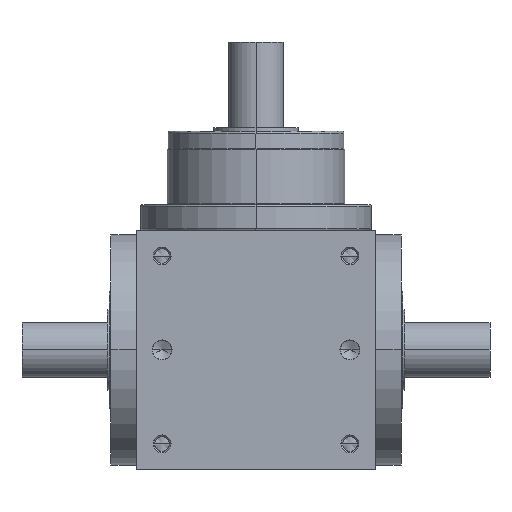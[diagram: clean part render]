
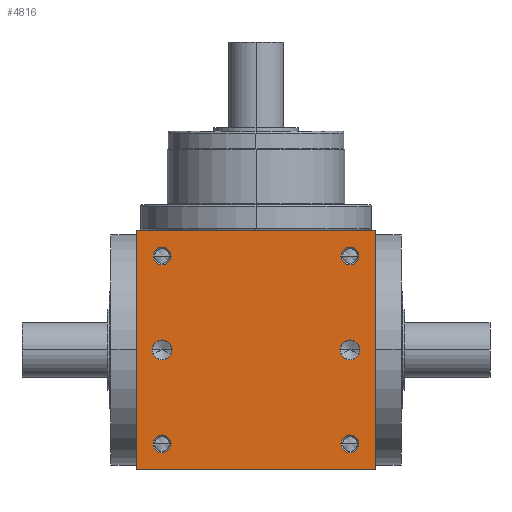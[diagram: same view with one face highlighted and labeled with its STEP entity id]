
A CAD part, front view. The second image highlights one B-rep face of the part: STEP entity #4816.
In plain terms, the highlighted planar face has unit normal (0, -1, 0).
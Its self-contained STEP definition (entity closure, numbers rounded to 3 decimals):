
#5=DIRECTION('',(1.,0.,0.));
#6=VECTOR('',#5,140.);
#7=CARTESIAN_POINT('',(-70.,-70.,-70.));
#8=LINE('',#7,#6);
#155=DIRECTION('',(0.,0.,1.));
#156=VECTOR('',#155,140.);
#157=CARTESIAN_POINT('',(70.,-70.,-70.));
#158=LINE('',#157,#156);
#209=DIRECTION('',(0.,0.,1.));
#210=VECTOR('',#209,140.);
#211=CARTESIAN_POINT('',(-70.,-70.,-70.));
#212=LINE('',#211,#210);
#213=CARTESIAN_POINT('',(55.,-70.,55.));
#214=DIRECTION('',(0.,1.,0.));
#215=DIRECTION('',(-1.,0.,0.));
#216=AXIS2_PLACEMENT_3D('',#213,#214,#215);
#218=CARTESIAN_POINT('',(55.,-70.,55.));
#219=DIRECTION('',(0.,1.,0.));
#220=DIRECTION('',(1.,0.,0.));
#221=AXIS2_PLACEMENT_3D('',#218,#219,#220);
#223=CARTESIAN_POINT('',(-55.,-70.,55.));
#224=DIRECTION('',(0.,1.,0.));
#225=DIRECTION('',(-1.,0.,0.));
#226=AXIS2_PLACEMENT_3D('',#223,#224,#225);
#228=CARTESIAN_POINT('',(-55.,-70.,55.));
#229=DIRECTION('',(0.,1.,0.));
#230=DIRECTION('',(1.,0.,0.));
#231=AXIS2_PLACEMENT_3D('',#228,#229,#230);
#233=CARTESIAN_POINT('',(55.,-70.,-55.));
#234=DIRECTION('',(0.,1.,0.));
#235=DIRECTION('',(-1.,0.,0.));
#236=AXIS2_PLACEMENT_3D('',#233,#234,#235);
#238=CARTESIAN_POINT('',(55.,-70.,-55.));
#239=DIRECTION('',(0.,1.,0.));
#240=DIRECTION('',(1.,0.,0.));
#241=AXIS2_PLACEMENT_3D('',#238,#239,#240);
#243=CARTESIAN_POINT('',(-55.,-70.,-55.));
#244=DIRECTION('',(0.,1.,0.));
#245=DIRECTION('',(-1.,0.,0.));
#246=AXIS2_PLACEMENT_3D('',#243,#244,#245);
#248=CARTESIAN_POINT('',(-55.,-70.,-55.));
#249=DIRECTION('',(0.,1.,0.));
#250=DIRECTION('',(1.,0.,0.));
#251=AXIS2_PLACEMENT_3D('',#248,#249,#250);
#253=CARTESIAN_POINT('',(-55.,-70.,0.));
#254=DIRECTION('',(0.,1.,0.));
#255=DIRECTION('',(1.,0.,0.));
#256=AXIS2_PLACEMENT_3D('',#253,#254,#255);
#258=CARTESIAN_POINT('',(-55.,-70.,0.));
#259=DIRECTION('',(0.,1.,0.));
#260=DIRECTION('',(-1.,0.,0.));
#261=AXIS2_PLACEMENT_3D('',#258,#259,#260);
#263=CARTESIAN_POINT('',(55.,-70.,0.));
#264=DIRECTION('',(0.,1.,0.));
#265=DIRECTION('',(1.,0.,0.));
#266=AXIS2_PLACEMENT_3D('',#263,#264,#265);
#268=CARTESIAN_POINT('',(55.,-70.,0.));
#269=DIRECTION('',(0.,1.,0.));
#270=DIRECTION('',(-1.,0.,0.));
#271=AXIS2_PLACEMENT_3D('',#268,#269,#270);
#285=DIRECTION('',(1.,0.,0.));
#286=VECTOR('',#285,140.);
#287=CARTESIAN_POINT('',(-70.,-70.,70.));
#288=LINE('',#287,#286);
#3852=CARTESIAN_POINT('',(-70.,-70.,-70.));
#3854=VERTEX_POINT('',#3852);
#3855=CARTESIAN_POINT('',(70.,-70.,-70.));
#3856=VERTEX_POINT('',#3855);
#3860=CARTESIAN_POINT('',(-70.,-70.,70.));
#3862=VERTEX_POINT('',#3860);
#3863=CARTESIAN_POINT('',(70.,-70.,70.));
#3864=VERTEX_POINT('',#3863);
#4043=CARTESIAN_POINT('',(49.75,-70.,55.));
#4044=CARTESIAN_POINT('',(60.25,-70.,55.));
#4045=VERTEX_POINT('',#4043);
#4046=VERTEX_POINT('',#4044);
#4051=CARTESIAN_POINT('',(-60.25,-70.,55.));
#4052=CARTESIAN_POINT('',(-49.75,-70.,55.));
#4053=VERTEX_POINT('',#4051);
#4054=VERTEX_POINT('',#4052);
#4059=CARTESIAN_POINT('',(49.75,-70.,-55.));
#4060=CARTESIAN_POINT('',(60.25,-70.,-55.));
#4061=VERTEX_POINT('',#4059);
#4062=VERTEX_POINT('',#4060);
#4067=CARTESIAN_POINT('',(-60.25,-70.,-55.));
#4068=CARTESIAN_POINT('',(-49.75,-70.,-55.));
#4069=VERTEX_POINT('',#4067);
#4070=VERTEX_POINT('',#4068);
#4427=CARTESIAN_POINT('',(-49.15,-70.,
0.));
#4428=CARTESIAN_POINT('',(-60.85,-70.,
0.));
#4429=VERTEX_POINT('',#4427);
#4430=VERTEX_POINT('',#4428);
#4435=CARTESIAN_POINT('',(60.85,-70.,0.));
#4436=CARTESIAN_POINT('',(49.15,-70.,0.));
#4437=VERTEX_POINT('',#4435);
#4438=VERTEX_POINT('',#4436);
#4768=CARTESIAN_POINT('',(-70.,-70.,-70.));
#4769=DIRECTION('',(0.,-1.,0.));
#4770=DIRECTION('',(1.,0.,0.));
#4771=AXIS2_PLACEMENT_3D('',#4768,#4769,#4770);
#4772=PLANE('',#4771);
#4773=ORIENTED_EDGE('',*,*,#4608,.F.);
#4774=ORIENTED_EDGE('',*,*,#4651,.T.);
#4776=ORIENTED_EDGE('',*,*,#4775,.T.);
#4777=ORIENTED_EDGE('',*,*,#4730,.F.);
#4778=EDGE_LOOP('',(#4773,#4774,#4776,#4777));
#4779=FACE_OUTER_BOUND('',#4778,.F.);
#4781=ORIENTED_EDGE('',*,*,#4780,.F.);
#4783=ORIENTED_EDGE('',*,*,#4782,.F.);
#4784=EDGE_LOOP('',(#4781,#4783));
#4785=FACE_BOUND('',#4784,.F.);
#4787=ORIENTED_EDGE('',*,*,#4786,.F.);
#4789=ORIENTED_EDGE('',*,*,#4788,.F.);
#4790=EDGE_LOOP('',(#4787,#4789));
#4791=FACE_BOUND('',#4790,.F.);
#4793=ORIENTED_EDGE('',*,*,#4792,.F.);
#4795=ORIENTED_EDGE('',*,*,#4794,.F.);
#4796=EDGE_LOOP('',(#4793,#4795));
#4797=FACE_BOUND('',#4796,.F.);
#4799=ORIENTED_EDGE('',*,*,#4798,.F.);
#4801=ORIENTED_EDGE('',*,*,#4800,.F.);
#4802=EDGE_LOOP('',(#4799,#4801));
#4803=FACE_BOUND('',#4802,.F.);
#4805=ORIENTED_EDGE('',*,*,#4804,.F.);
#4807=ORIENTED_EDGE('',*,*,#4806,.F.);
#4808=EDGE_LOOP('',(#4805,#4807));
#4809=FACE_BOUND('',#4808,.F.);
#4811=ORIENTED_EDGE('',*,*,#4810,.F.);
#4813=ORIENTED_EDGE('',*,*,#4812,.F.);
#4814=EDGE_LOOP('',(#4811,#4813));
#4815=FACE_BOUND('',#4814,.F.);
#4816=ADVANCED_FACE('',(#4779,#4785,#4791,#4797,#4803,#4809,#4815),#4772,.T.);
#217=CIRCLE('',#216,5.25);
#222=CIRCLE('',#221,5.25);
#227=CIRCLE('',#226,5.25);
#232=CIRCLE('',#231,5.25);
#237=CIRCLE('',#236,5.25);
#242=CIRCLE('',#241,5.25);
#247=CIRCLE('',#246,5.25);
#252=CIRCLE('',#251,5.25);
#257=CIRCLE('',#256,5.85);
#262=CIRCLE('',#261,5.85);
#267=CIRCLE('',#266,5.85);
#272=CIRCLE('',#271,5.85);
#4608=EDGE_CURVE('',#3854,#3856,#8,.T.);
#4651=EDGE_CURVE('',#3854,#3862,#212,.T.);
#4730=EDGE_CURVE('',#3856,#3864,#158,.T.);
#4775=EDGE_CURVE('',#3862,#3864,#288,.T.);
#4780=EDGE_CURVE('',#4045,#4046,#217,.T.);
#4782=EDGE_CURVE('',#4046,#4045,#222,.T.);
#4786=EDGE_CURVE('',#4053,#4054,#227,.T.);
#4788=EDGE_CURVE('',#4054,#4053,#232,.T.);
#4792=EDGE_CURVE('',#4061,#4062,#237,.T.);
#4794=EDGE_CURVE('',#4062,#4061,#242,.T.);
#4798=EDGE_CURVE('',#4069,#4070,#247,.T.);
#4800=EDGE_CURVE('',#4070,#4069,#252,.T.);
#4804=EDGE_CURVE('',#4429,#4430,#257,.T.);
#4806=EDGE_CURVE('',#4430,#4429,#262,.T.);
#4810=EDGE_CURVE('',#4437,#4438,#267,.T.);
#4812=EDGE_CURVE('',#4438,#4437,#272,.T.);
